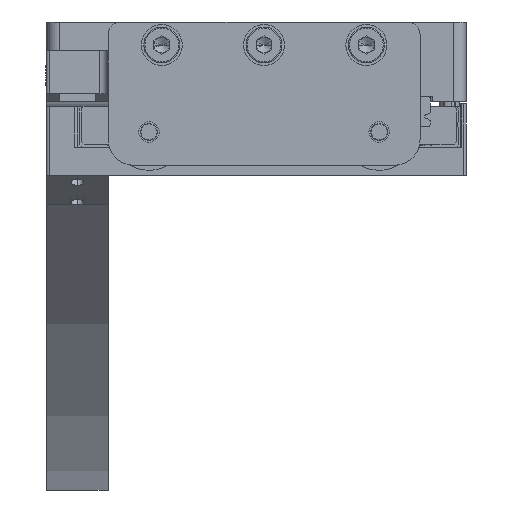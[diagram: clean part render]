
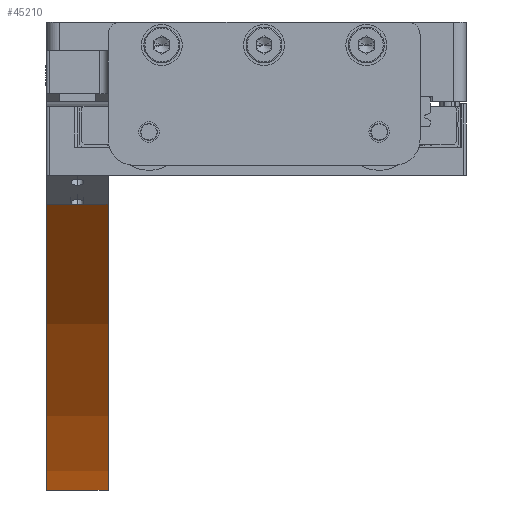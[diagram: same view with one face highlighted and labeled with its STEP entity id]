
A CAD part, front view. The second image highlights one B-rep face of the part: STEP entity #45210.
In plain terms, the highlighted cylindrical face has radius 425.462 mm (diameter 850.925 mm), a partial arc.
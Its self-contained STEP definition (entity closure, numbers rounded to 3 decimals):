
#234 = EDGE_CURVE ( 'NONE', #38023, #11223, #34586, .T. ) ;
#1022 = ORIENTED_EDGE ( 'NONE', *, *, #234, .F. ) ;
#1314 = CIRCLE ( 'NONE', #23589, 425.462 ) ;
#1401 = CARTESIAN_POINT ( 'NONE',  ( -221.184, 9.5, 81. ) ) ;
#1891 = CARTESIAN_POINT ( 'NONE',  ( -221.184, -2.5, 81. ) ) ;
#3081 = CARTESIAN_POINT ( 'NONE',  ( -8.453, -2.5, 23.999 ) ) ;
#4937 = VERTEX_POINT ( 'NONE', #1891 ) ;
#5593 = CARTESIAN_POINT ( 'NONE',  ( -221.184, 9.5, 81. ) ) ;
#6354 = VERTEX_POINT ( 'NONE', #3081 ) ;
#6735 = EDGE_CURVE ( 'NONE', #38023, #4937, #12458, .T. ) ;
#7516 = DIRECTION ( 'NONE',  ( 0., 1., 0. ) ) ;
#7662 = LINE ( 'NONE', #45181, #38387 ) ;
#11223 = VERTEX_POINT ( 'NONE', #43803 ) ;
#12458 = LINE ( 'NONE', #1401, #13710 ) ;
#12903 = AXIS2_PLACEMENT_3D ( 'NONE', #13998, #7516, #17573 ) ;
#13046 = DIRECTION ( 'NONE',  ( 0., -1., 0. ) ) ;
#13710 = VECTOR ( 'NONE', #45188, 1000. ) ;
#13998 = CARTESIAN_POINT ( 'NONE',  ( -221.184, 9.5, -344.462 ) ) ;
#17416 = DIRECTION ( 'NONE',  ( 0., 1., 0. ) ) ;
#17573 = DIRECTION ( 'NONE',  ( 0., 0., 1. ) ) ;
#18416 = DIRECTION ( 'NONE',  ( 0., 0., 1. ) ) ;
#21074 = DIRECTION ( 'NONE',  ( 0., 0., 1. ) ) ;
#21723 = EDGE_CURVE ( 'NONE', #11223, #6354, #7662, .T. ) ;
#22501 = EDGE_LOOP ( 'NONE', ( #37475, #44868, #1022, #42928 ) ) ;
#23589 = AXIS2_PLACEMENT_3D ( 'NONE', #28164, #17416, #21074 ) ;
#28164 = CARTESIAN_POINT ( 'NONE',  ( -221.184, -2.5, -344.462 ) ) ;
#29387 = DIRECTION ( 'NONE',  ( 0., 1., 0. ) ) ;
#34586 = CIRCLE ( 'NONE', #12903, 425.462 ) ;
#36282 = CARTESIAN_POINT ( 'NONE',  ( -221.184, 0., -344.462 ) ) ;
#37475 = ORIENTED_EDGE ( 'NONE', *, *, #40170, .T. ) ;
#38023 = VERTEX_POINT ( 'NONE', #5593 ) ;
#38387 = VECTOR ( 'NONE', #13046, 1000. ) ;
#40170 = EDGE_CURVE ( 'NONE', #4937, #6354, #1314, .T. ) ;
#41268 = CYLINDRICAL_SURFACE ( 'NONE', #42987, 425.462 ) ;
#41421 = FACE_OUTER_BOUND ( 'NONE', #22501, .T. ) ;
#42928 = ORIENTED_EDGE ( 'NONE', *, *, #6735, .T. ) ;
#42987 = AXIS2_PLACEMENT_3D ( 'NONE', #36282, #29387, #18416 ) ;
#43803 = CARTESIAN_POINT ( 'NONE',  ( -8.453, 9.5, 23.999 ) ) ;
#44868 = ORIENTED_EDGE ( 'NONE', *, *, #21723, .F. ) ;
#45181 = CARTESIAN_POINT ( 'NONE',  ( -8.453, 9.5, 23.999 ) ) ;
#45188 = DIRECTION ( 'NONE',  ( 0., -1., 0. ) ) ;
#45210 = ADVANCED_FACE ( 'NONE', ( #41421 ), #41268, .T. ) ;
